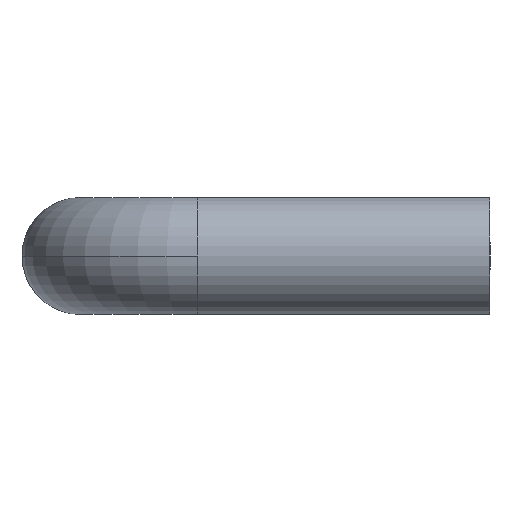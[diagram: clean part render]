
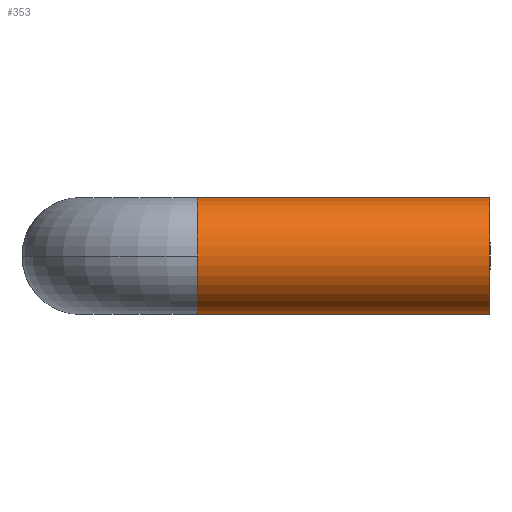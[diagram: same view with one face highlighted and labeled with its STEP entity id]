
A CAD part, left-side view. The second image highlights one B-rep face of the part: STEP entity #353.
In plain terms, the highlighted cylindrical face has radius 5 mm (diameter 10 mm), a partial arc.
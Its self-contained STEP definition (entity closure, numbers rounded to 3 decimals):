
#19 = CYLINDRICAL_SURFACE ( 'NONE', #366, 5. ) ;
#23 = VECTOR ( 'NONE', #157, 1000. ) ;
#27 = LINE ( 'NONE', #160, #23 ) ;
#29 = LINE ( 'NONE', #158, #30 ) ;
#30 = VECTOR ( 'NONE', #159, 1000. ) ;
#37 = FACE_OUTER_BOUND ( 'NONE', #255, .T. ) ;
#81 = CARTESIAN_POINT ( 'NONE',  ( -55., -10., 5. ) ) ;
#87 = CARTESIAN_POINT ( 'NONE',  ( -55., -10., 0. ) ) ;
#89 = CARTESIAN_POINT ( 'NONE',  ( -55., -35., 5. ) ) ;
#110 = CARTESIAN_POINT ( 'NONE',  ( -55., -35., -5. ) ) ;
#114 = CARTESIAN_POINT ( 'NONE',  ( -60., -10., 0. ) ) ;
#117 = CARTESIAN_POINT ( 'NONE',  ( -55., -10., -5. ) ) ;
#135 = DIRECTION ( 'NONE',  ( 0., -1., 0. ) ) ;
#139 = DIRECTION ( 'NONE',  ( 0., 0., -1. ) ) ;
#157 = DIRECTION ( 'NONE',  ( 0., -1., 0. ) ) ;
#158 = CARTESIAN_POINT ( 'NONE',  ( -55., -10., 5. ) ) ;
#159 = DIRECTION ( 'NONE',  ( 0., -1., 0. ) ) ;
#160 = CARTESIAN_POINT ( 'NONE',  ( -55., -10., -5. ) ) ;
#197 = AXIS2_PLACEMENT_3D ( 'NONE', #459, #460, #461 ) ;
#203 = AXIS2_PLACEMENT_3D ( 'NONE', #481, #482, #483 ) ;
#204 = AXIS2_PLACEMENT_3D ( 'NONE', #484, #485, #486 ) ;
#220 = VERTEX_POINT ( 'NONE', #89 ) ;
#221 = VERTEX_POINT ( 'NONE', #110 ) ;
#229 = VERTEX_POINT ( 'NONE', #81 ) ;
#242 = VERTEX_POINT ( 'NONE', #117 ) ;
#245 = VERTEX_POINT ( 'NONE', #114 ) ;
#255 = EDGE_LOOP ( 'NONE', ( #316, #317, #318, #319, #320 ) ) ;
#316 = ORIENTED_EDGE ( 'NONE', *, *, #387, .F. ) ;
#317 = ORIENTED_EDGE ( 'NONE', *, *, #419, .F. ) ;
#318 = ORIENTED_EDGE ( 'NONE', *, *, #410, .F. ) ;
#319 = ORIENTED_EDGE ( 'NONE', *, *, #389, .T. ) ;
#320 = ORIENTED_EDGE ( 'NONE', *, *, #420, .T. ) ;
#353 = ADVANCED_FACE ( 'NONE', ( #37 ), #19, .T. ) ;
#366 = AXIS2_PLACEMENT_3D ( 'NONE', #87, #135, #139 ) ;
#387 = EDGE_CURVE ( 'NONE', #229, #220, #29, .T. ) ;
#389 = EDGE_CURVE ( 'NONE', #242, #221, #27, .T. ) ;
#410 = EDGE_CURVE ( 'NONE', #242, #245, #524, .T. ) ;
#419 = EDGE_CURVE ( 'NONE', #245, #229, #535, .T. ) ;
#420 = EDGE_CURVE ( 'NONE', #221, #220, #536, .T. ) ;
#459 = CARTESIAN_POINT ( 'NONE',  ( -55., -10., 0. ) ) ;
#460 = DIRECTION ( 'NONE',  ( 0., 1., 0. ) ) ;
#461 = DIRECTION ( 'NONE',  ( -1., 0., 0. ) ) ;
#481 = CARTESIAN_POINT ( 'NONE',  ( -55., -10., 0. ) ) ;
#482 = DIRECTION ( 'NONE',  ( 0., 1., 0. ) ) ;
#483 = DIRECTION ( 'NONE',  ( -1., 0., 0. ) ) ;
#484 = CARTESIAN_POINT ( 'NONE',  ( -55., -35., 0. ) ) ;
#485 = DIRECTION ( 'NONE',  ( 0., 1., 0. ) ) ;
#486 = DIRECTION ( 'NONE',  ( -1., 0., 0. ) ) ;
#524 = CIRCLE ( 'NONE', #197, 5. ) ;
#535 = CIRCLE ( 'NONE', #203, 5. ) ;
#536 = CIRCLE ( 'NONE', #204, 5. ) ;
